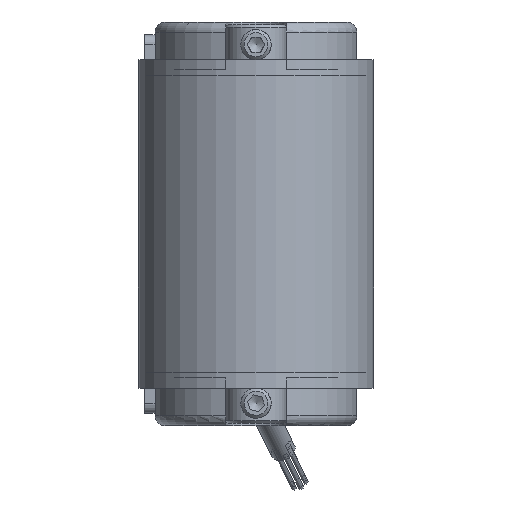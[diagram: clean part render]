
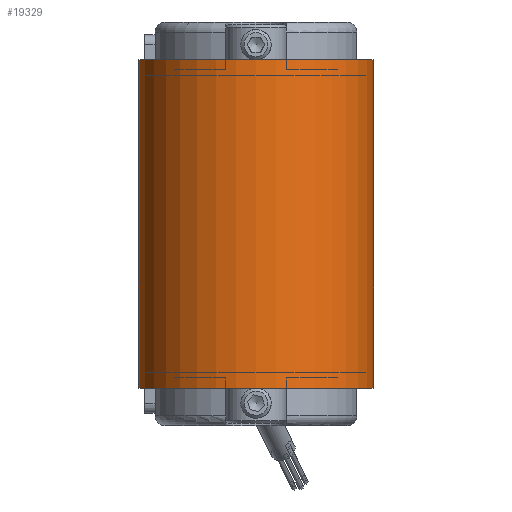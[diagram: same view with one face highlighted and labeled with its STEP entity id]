
A CAD part, front view. The second image highlights one B-rep face of the part: STEP entity #19329.
In plain terms, the highlighted cylindrical face has radius 23.3 mm (diameter 46.6 mm), a partial arc.
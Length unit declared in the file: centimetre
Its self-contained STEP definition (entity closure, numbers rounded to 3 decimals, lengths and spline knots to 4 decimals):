
#1514=FACE_OUTER_BOUND('',#2561,.T.);
#2561=EDGE_LOOP('',(#13421,#13422,#13423,#13424));
#3770=CIRCLE('',#20709,2.33);
#3773=CIRCLE('',#20715,2.33);
#4753=LINE('',#28568,#6313);
#4754=LINE('',#28572,#6314);
#6313=VECTOR('',#23443,1.);
#6314=VECTOR('',#23448,1.);
#7940=VERTEX_POINT('',#28551);
#7941=VERTEX_POINT('',#28552);
#7946=VERTEX_POINT('',#28566);
#7947=VERTEX_POINT('',#28570);
#10062=EDGE_CURVE('',#7940,#7941,#3770,.T.);
#10070=EDGE_CURVE('',#7946,#7941,#4753,.T.);
#10071=EDGE_CURVE('',#7946,#7947,#3773,.T.);
#10072=EDGE_CURVE('',#7940,#7947,#4754,.T.);
#13421=ORIENTED_EDGE('',*,*,#10071,.T.);
#13422=ORIENTED_EDGE('',*,*,#10072,.F.);
#13423=ORIENTED_EDGE('',*,*,#10062,.T.);
#13424=ORIENTED_EDGE('',*,*,#10070,.F.);
#17916=CYLINDRICAL_SURFACE('',#20714,2.33);
#19329=ADVANCED_FACE('',(#1514),#17916,.T.);
#20709=AXIS2_PLACEMENT_3D('',#28553,#23428,#23429);
#20714=AXIS2_PLACEMENT_3D('',#28569,#23444,#23445);
#20715=AXIS2_PLACEMENT_3D('',#28571,#23446,#23447);
#23428=DIRECTION('center_axis',(0.,0.,
-1.));
#23429=DIRECTION('ref_axis',(-1.,0.,0.));
#23443=DIRECTION('',(0.,0.,1.));
#23444=DIRECTION('center_axis',(0.,0.,
-1.));
#23445=DIRECTION('ref_axis',(-1.,0.,0.));
#23446=DIRECTION('center_axis',(0.,0.,
1.));
#23447=DIRECTION('ref_axis',(-1.,0.,0.));
#23448=DIRECTION('',(0.,0.,-1.));
#28551=CARTESIAN_POINT('',(2.33,-107.,3.25));
#28552=CARTESIAN_POINT('',(-2.33,-107.,3.25));
#28553=CARTESIAN_POINT('Origin',(0.,-107.,
3.25));
#28566=CARTESIAN_POINT('',(-2.33,-107.,-3.25));
#28568=CARTESIAN_POINT('',(-2.33,-107.,0.));
#28569=CARTESIAN_POINT('Origin',(0.,-107.,
0.));
#28570=CARTESIAN_POINT('',(2.33,-107.,-3.25));
#28571=CARTESIAN_POINT('Origin',(0.,-107.,
-3.25));
#28572=CARTESIAN_POINT('',(2.33,-107.,0.));
